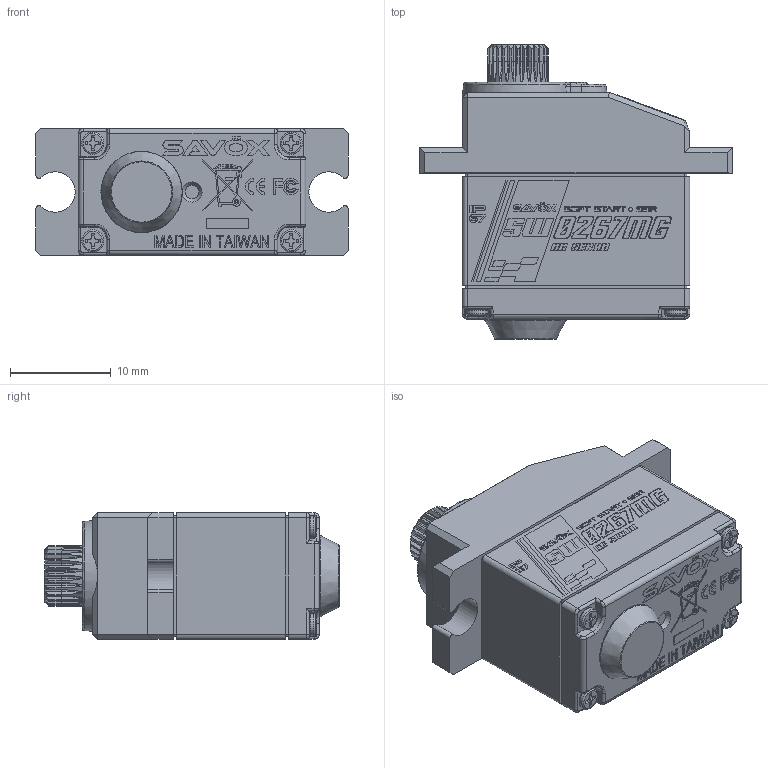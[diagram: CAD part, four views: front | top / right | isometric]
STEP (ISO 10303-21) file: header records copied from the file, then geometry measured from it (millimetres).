
FILE_DESCRIPTION (( 'STEP AP214' ), '1' );
FILE_NAME ('SW-0267MG_3D??+??.STEP', '2025-04-16T10:18:46', ( '' ), ( '' ), 'SwSTEP 2.0', 'SolidWorks 2024', '' );
FILE_SCHEMA (( 'AUTOMOTIVE_DESIGN' ));
Length unit declared in the file: millimetre
Products named in the file (1): SW-0267MG_3D零件+齒輪
Bounding box: 31 x 29.25 x 12.6 mm (x, y, z)
Volume: 6652.4 mm3; surface area: 2657.1 mm2
Topology: 1 solids, 1 shells, 968 faces, 4678 edges, 3900 vertices
Faces by surface type: plane 605, cylinder 177, bspline 99, cone 87
Full cylindrical faces by diameter (mm): 0.22 x1, 0.446 x1, 2.2 x4, 2.5 x1, 3.15 x1, 6 x1, 6.02 x1
Entity records: 63989 total; most frequent: CARTESIAN_POINT 16937, ORIENTED_EDGE 9306, DIRECTION 5557, EDGE_CURVE 4653, VERTEX_POINT 3899, LINE 2723, VECTOR 2723, AXIS2_PLACEMENT_3D 1417
